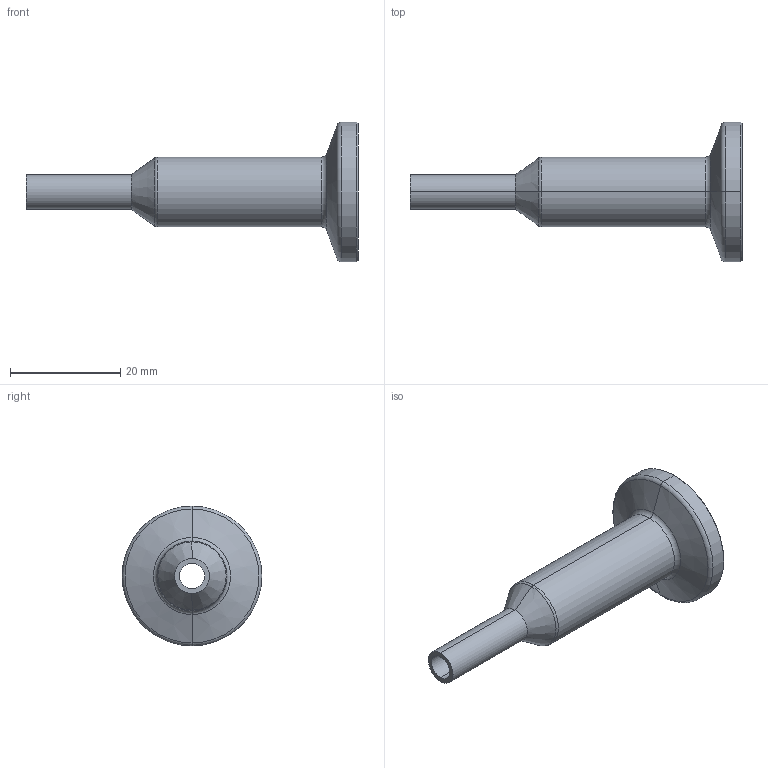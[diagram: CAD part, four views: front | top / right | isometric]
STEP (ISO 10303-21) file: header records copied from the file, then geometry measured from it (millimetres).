
FILE_DESCRIPTION (( 'STEP AP214' ), '1' );
FILE_NAME ('TE31SCW6L.5x.25-...STEP', '2016-05-29T10:43:27', ( 'eran' ), ( '' ), 'SwSTEP 2.0', 'SolidWorks 2016', '' );
FILE_SCHEMA (( 'AUTOMOTIVE_DESIGN' ));
Length unit declared in the file: millimetre
Products named in the file (1): TE31SCW6L.5x.25-..
Bounding box: 60.33 x 25.4 x 25.4 mm (x, y, z)
Volume: 4947.6 mm3; surface area: 4215.5 mm2
Topology: 1 solids, 1 shells, 37 faces, 74 edges, 40 vertices
Faces by surface type: cone 12, cylinder 12, torus 10, plane 3
Entity records: 992 total; most frequent: DIRECTION 200, CARTESIAN_POINT 152, ORIENTED_EDGE 148, AXIS2_PLACEMENT_3D 88, EDGE_CURVE 74, CIRCLE 50, EDGE_LOOP 40, VERTEX_POINT 40
